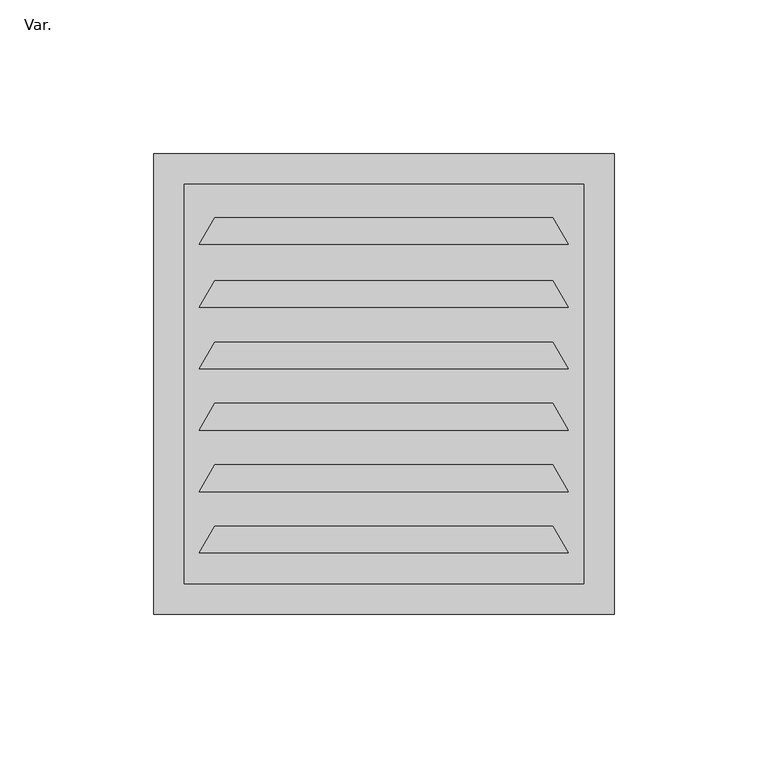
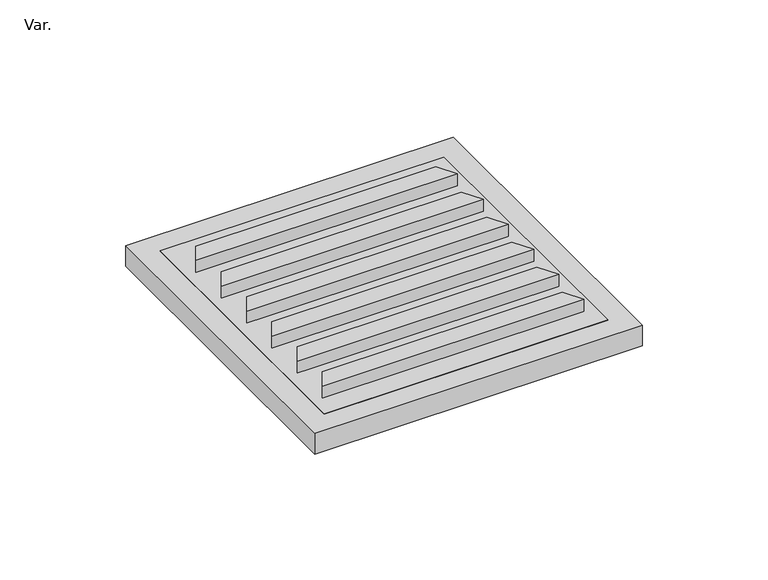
"""IFC4 building model written with IfcOpenShell, lengths in millimetres: pipe fitting geometry, PlastigamaWavin_Unionesdetubería_SanitariaRejillaVentPersiana15cm-20cm : Var.."""

from ifc_helpers import new_model, si_unit, origin, origin_with_axes, place, context, project, spatial, polyline, outline, extrude, source, transform, mapped, element, save


def var_82650048(model_context):
    return source(origin(), model_context, "Body", "SweptSolid", [
        extrude(outline(polyline([(-60.0759109, 20.0), (-55.0759109, 28.660254), (54.9240891, 28.660254), (59.9240891, 20.0), (-60.0759109, 20.0)])), origin_with_axes(), (0.0, 0.0, 1.0), 15.5268835),
        extrude(outline(polyline([(-60.0759109, 40.0), (-55.0759109, 48.660254), (54.9240891, 48.660254), (59.9240891, 40.0), (-60.0759109, 40.0)])), origin_with_axes(), (0.0, 0.0, 1.0), 15.5268835),
        extrude(outline(polyline([(-60.0759109, 60.0), (-55.0759109, 68.660254), (54.9240891, 68.660254), (59.9240891, 60.0), (-60.0759109, 60.0)])), origin_with_axes(), (0.0, 0.0, 1.0), 15.5268835),
        extrude(outline(polyline([(-60.0759109, 80.0), (-55.0759109, 88.660254), (54.9240891, 88.660254), (59.9240891, 80.0), (-60.0759109, 80.0)])), origin_with_axes(), (0.0, 0.0, 1.0), 15.5268835),
        extrude(outline(polyline([(-60.0759109, 100.0), (-55.0759109, 108.660254), (54.9240891, 108.660254), (59.9240891, 100.0), (-60.0759109, 100.0)])), origin_with_axes(), (0.0, 0.0, 1.0), 15.5268835),
        extrude(outline(polyline([(-60.0759109, 120.4650624), (-55.0759109, 129.1253165), (54.9240891, 129.1253165), (59.9240891, 120.4650624), (-60.0759109, 120.4650624)])), origin_with_axes(), (0.0, 0.0, 1.0), 15.5268835),
        extrude(outline(polyline([(-65.0, 10.0), (-65.0, 140.0), (65.0, 140.0), (65.0, 10.0), (-65.0, 10.0)])), origin_with_axes(), (0.0, 0.0, 1.0), 10.0),
        extrude(outline(polyline([(-75.0, 150.0), (75.0, 150.0), (75.0, 0.0), (-75.0, 0.0), (-75.0, 150.0)])), origin_with_axes(), (0.0, 0.0, 1.0), 10.0),
    ])


if __name__ == "__main__":
    model = new_model("IFC4")
    model_context = context("Model", 3, world=origin())
    ifc_project = project(units=[si_unit("LENGTHUNIT", "METRE", prefix="MILLI")], contexts=[model_context])
    site = spatial("IfcSite", under=ifc_project)
    building = spatial("IfcBuilding", under=site)
    placement = place(None, origin())
    var_shape = var_82650048(model_context)
    element("IfcPipeFitting", 1, ObjectType="PlastigamaWavin_Unionesdetubería_SanitariaRejillaVentPersiana15cm-20cm : Var.", at=placement, inside=building, context=model_context, shape_type="MappedRepresentation", body=[
        mapped(var_shape, transform((0.0, 0.0, 0.0), x_axis=(1.0, 0.0, 0.0), y_axis=(0.0, 1.0, 0.0), z_axis=(0.0, 0.0, 1.0))),
    ])
    save(model, "model.ifc")
